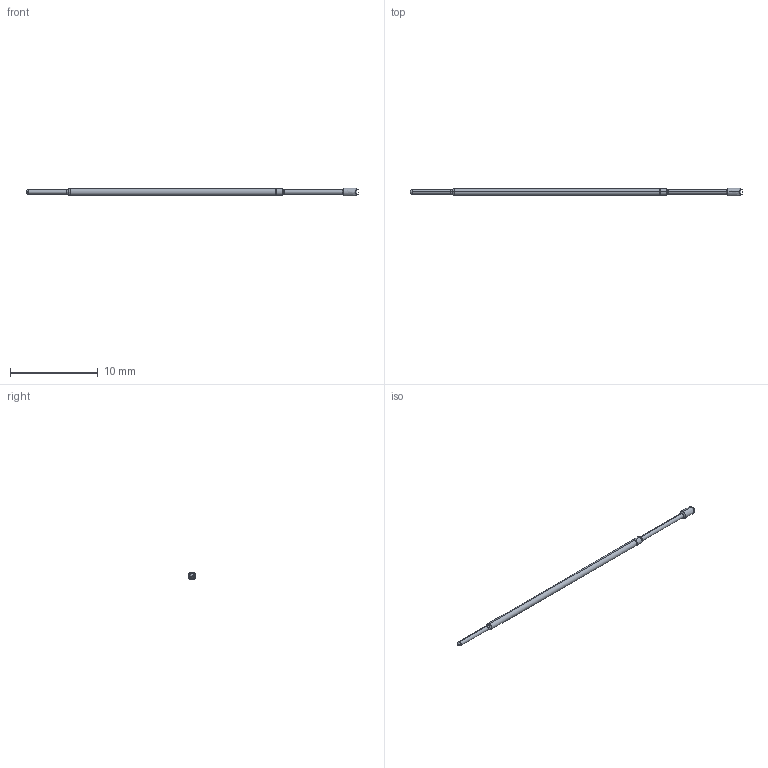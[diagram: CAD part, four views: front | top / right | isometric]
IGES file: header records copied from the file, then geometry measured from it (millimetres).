
Start section: SolidWorks IGES file using analytic representation for surfaces
Global section: file name: C:\Documents and Settings\mrumschlag\Desktop\changes\new\test\H.IGS; native system: SolidWorks 2011; preprocessor: SolidWorks 2011; author: mrumschlag; date: 110630.142724; units: inch
Bounding box: 37.93 x 0.89 x 0.89 mm (x, y, z)
Surface area: 83.7 mm2 (no closed solid volume)
Topology: 0 solids, 0 shells, 55 faces, 266 edges, 264 vertices
Faces by surface type: bspline 37, revolution 18
